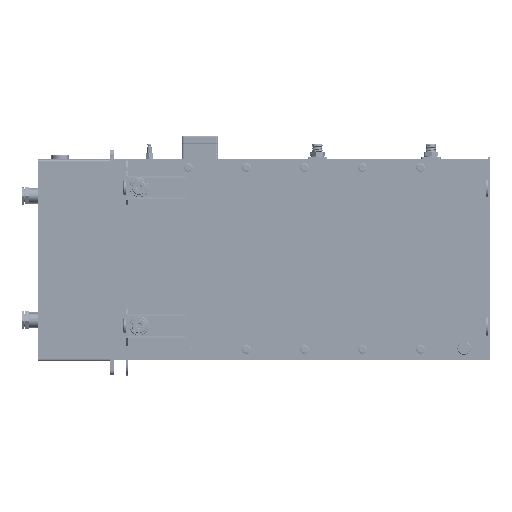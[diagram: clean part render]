
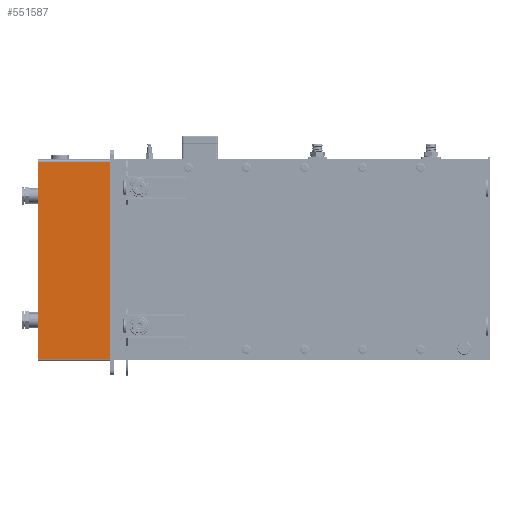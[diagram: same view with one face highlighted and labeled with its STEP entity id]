
A CAD part, left-side view. The second image highlights one B-rep face of the part: STEP entity #551587.
In plain terms, the highlighted planar face has unit normal (-1, 0, 0).
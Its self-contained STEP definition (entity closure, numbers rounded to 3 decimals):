
#49539 = VERTEX_POINT ( 'NONE', #296776 ) ;
#50767 = VECTOR ( 'NONE', #507992, 1000. ) ;
#54799 = ORIENTED_EDGE ( 'NONE', *, *, #619932, .F. ) ;
#57704 = LINE ( 'NONE', #529634, #623586 ) ;
#71089 = DIRECTION ( 'NONE',  ( 0., 0., 1. ) ) ;
#81179 = ORIENTED_EDGE ( 'NONE', *, *, #240497, .T. ) ;
#95996 = PLANE ( 'NONE',  #311996 ) ;
#121824 = DIRECTION ( 'NONE',  ( 0., -1., 0. ) ) ;
#126088 = CARTESIAN_POINT ( 'NONE',  ( -235.414, 948.603, 300.266 ) ) ;
#158869 = ORIENTED_EDGE ( 'NONE', *, *, #446127, .T. ) ;
#168034 = VERTEX_POINT ( 'NONE', #126088 ) ;
#235070 = LINE ( 'NONE', #442177, #442910 ) ;
#240497 = EDGE_CURVE ( 'NONE', #487066, #49539, #57704, .T. ) ;
#264673 = VERTEX_POINT ( 'NONE', #422274 ) ;
#286361 = VECTOR ( 'NONE', #121824, 1000. ) ;
#296776 = CARTESIAN_POINT ( 'NONE',  ( -235.414, 798.603, 300.266 ) ) ;
#303189 = FACE_OUTER_BOUND ( 'NONE', #452848, .T. ) ;
#311996 = AXIS2_PLACEMENT_3D ( 'NONE', #656321, #459349, #608807 ) ;
#379947 = LINE ( 'NONE', #587036, #286361 ) ;
#416083 = CARTESIAN_POINT ( 'NONE',  ( -235.414, 978.603, -112.507 ) ) ;
#422274 = CARTESIAN_POINT ( 'NONE',  ( -235.414, 948.603, -112.507 ) ) ;
#442177 = CARTESIAN_POINT ( 'NONE',  ( -235.414, 948.603, 289.028 ) ) ;
#442910 = VECTOR ( 'NONE', #642559, 1000. ) ;
#446127 = EDGE_CURVE ( 'NONE', #264673, #487066, #670684, .T. ) ;
#448745 = EDGE_CURVE ( 'NONE', #168034, #264673, #235070, .T. ) ;
#452848 = EDGE_LOOP ( 'NONE', ( #657587, #158869, #81179, #54799 ) ) ;
#459349 = DIRECTION ( 'NONE',  ( 1., 0., 0. ) ) ;
#487066 = VERTEX_POINT ( 'NONE', #514629 ) ;
#507992 = DIRECTION ( 'NONE',  ( 0., -1., 0. ) ) ;
#514629 = CARTESIAN_POINT ( 'NONE',  ( -235.414, 798.603, -112.507 ) ) ;
#529634 = CARTESIAN_POINT ( 'NONE',  ( -235.414, 798.603, 289.028 ) ) ;
#551587 = ADVANCED_FACE ( 'NONE', ( #303189 ), #95996, .F. ) ;
#587036 = CARTESIAN_POINT ( 'NONE',  ( -235.414, 1318.157, 300.266 ) ) ;
#608807 = DIRECTION ( 'NONE',  ( 0., 0., -1. ) ) ;
#619932 = EDGE_CURVE ( 'NONE', #168034, #49539, #379947, .T. ) ;
#623586 = VECTOR ( 'NONE', #71089, 1000. ) ;
#642559 = DIRECTION ( 'NONE',  ( 0., 0., -1. ) ) ;
#656321 = CARTESIAN_POINT ( 'NONE',  ( -235.414, 978.603, 289.028 ) ) ;
#657587 = ORIENTED_EDGE ( 'NONE', *, *, #448745, .T. ) ;
#670684 = LINE ( 'NONE', #416083, #50767 ) ;
